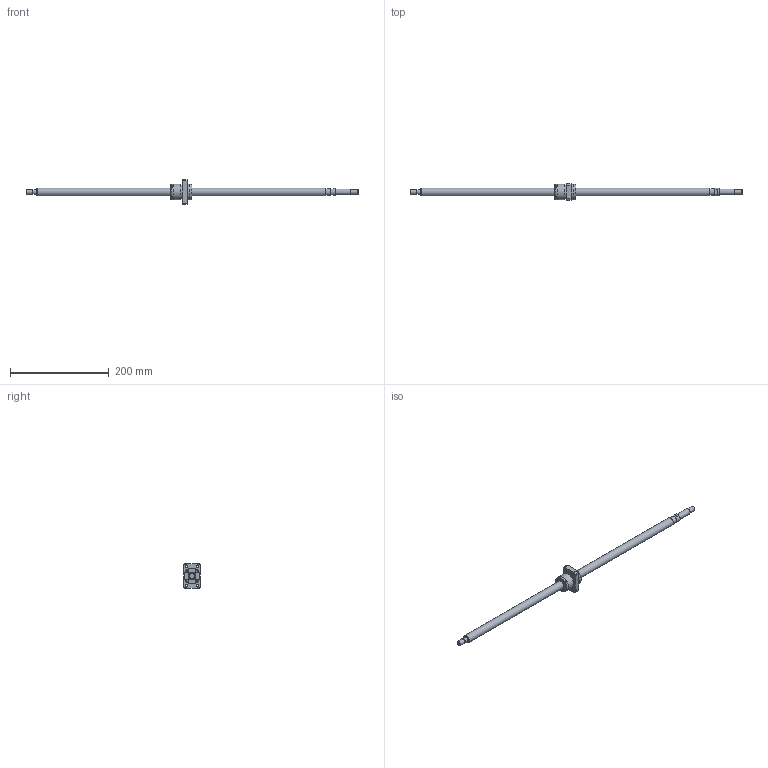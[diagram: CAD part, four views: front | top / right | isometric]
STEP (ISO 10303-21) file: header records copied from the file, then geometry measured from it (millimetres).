
FILE_DESCRIPTION(/* description */ ('STEP AP203'),/* implementation_level */ '2;1');
FILE_NAME(/* name */ 'BNK1616-3.6G0+671LC5Y(3130)',/* time_stamp */ '2024-07-09T09:30:53+02:00',/* author */ ('License CC BY-ND 4.0'),/* organization */ ('CADENAS'),/* preprocessor_version */ 'ST-DEVELOPER v19.3',/* originating_system */ 'PARTsolutions',/* authorisation */ ' ');
FILE_SCHEMA (('CONFIG_CONTROL_DESIGN'));
Length unit declared in the file: millimetre
Products named in the file (3): BNK1616-3.6G0+671LC5Y(3130); BNK 1616-3.6G0+671LC5Y Shaft; BNK 1616-3.6G0+671LC5Y0 Nut
Assembly tree (2 placements, depth 2):
  BNK1616-3.6G0+671LC5Y(3130)
    BNK 1616-3.6G0+671LC5Y Shaft
    BNK 1616-3.6G0+671LC5Y0 Nut
Bounding box: 671 x 34 x 50 mm (x, y, z)
Volume: 158237.9 mm3; surface area: 44343.7 mm2
Topology: 2 solids, 2 shells, 136 faces, 312 edges, 202 vertices
Faces by surface type: plane 75, cylinder 35, cone 20, torus 6
Full cylindrical faces by diameter (mm): 5.188 x1, 5.5 x8, 9.5 x4, 9.6 x1, 10 x3, 12 x1, 14 x1, 15 x1, 16 x2, 28.8 x1, 31.8 x2, 32 x2
Entity records: 3705 total; most frequent: CARTESIAN_POINT 676, DIRECTION 626, ORIENTED_EDGE 530, EDGE_CURVE 265, AXIS2_PLACEMENT_3D 247, FACE_BOUND 210, EDGE_LOOP 209, VERTEX_POINT 197
